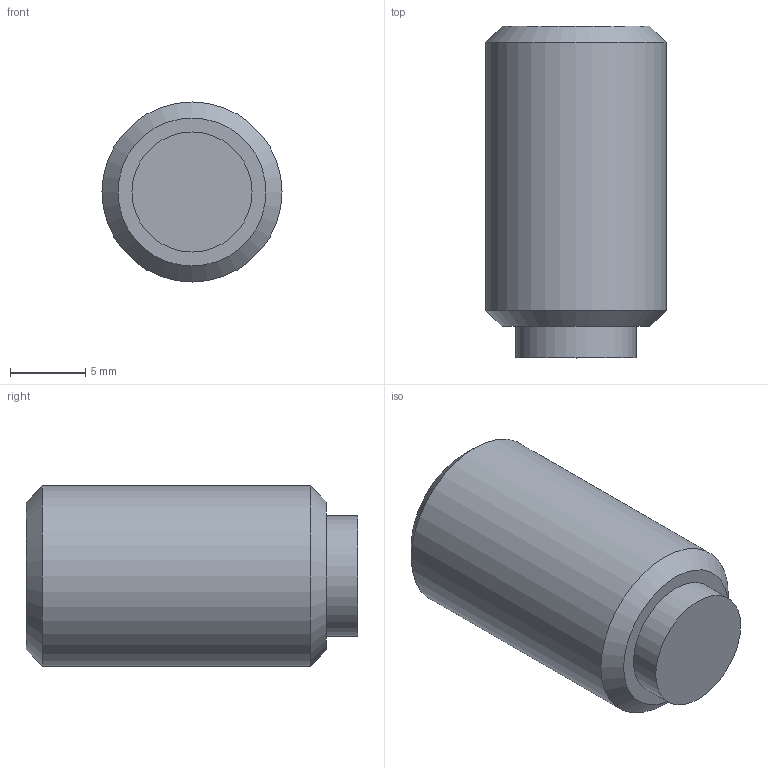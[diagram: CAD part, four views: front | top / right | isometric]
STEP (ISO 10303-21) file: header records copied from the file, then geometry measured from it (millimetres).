
FILE_DESCRIPTION( ( 'STEP AP203' ), '1' );
FILE_NAME( 'C:/Temp/Ganter_Step_05_03_2020/data/3_2/gn913_3/Grub screw GN 913.3-M12-20-KU.stp', '2020-03-13T05:35:41', ( 'License CC BY-ND 4.0' ), ( 'CADENAS' ), ' ', 'PARTsolutions', ' ' );
FILE_SCHEMA( ( 'CONFIG_CONTROL_DESIGN' ) );
Length unit declared in the file: millimetre
Products named in the file (1): _Grub screw GN 913.3-M12-20-KU
Bounding box: 12 x 22.1 x 12 mm (x, y, z)
Volume: 2077.2 mm3; surface area: 1148.8 mm2
Topology: 1 solids, 1 shells, 14 faces, 28 edges, 18 vertices
Faces by surface type: plane 10, cylinder 2, cone 2
Full cylindrical faces by diameter (mm): 8 x1, 12 x1
Entity records: 386 total; most frequent: DIRECTION 60, CARTESIAN_POINT 57, ORIENTED_EDGE 48, EDGE_CURVE 24, AXIS2_PLACEMENT_3D 21, EDGE_LOOP 20, VERTEX_POINT 18, LINE 18
